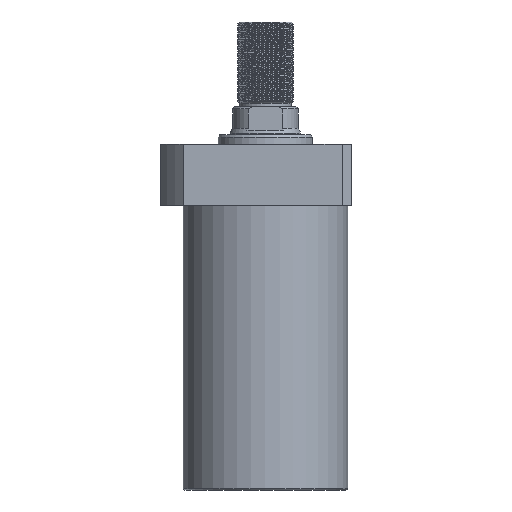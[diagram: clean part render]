
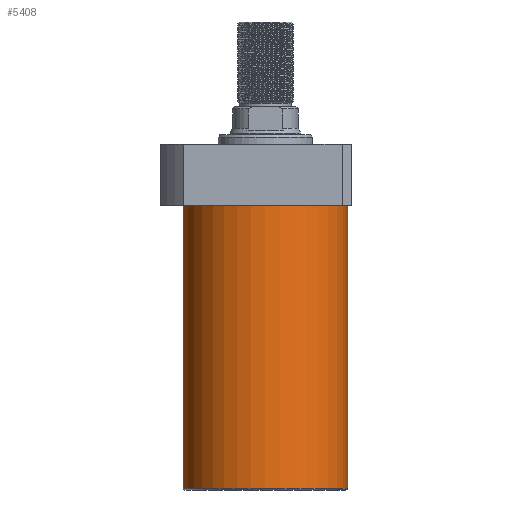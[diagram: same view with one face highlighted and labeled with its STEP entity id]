
A CAD part, front view. The second image highlights one B-rep face of the part: STEP entity #5408.
In plain terms, the highlighted cylindrical face has radius 52.5 mm (diameter 105 mm), a partial arc.
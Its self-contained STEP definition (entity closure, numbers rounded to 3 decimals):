
#83 = ORIENTED_EDGE ( 'NONE', *, *, #6914, .T. ) ;
#366 = VERTEX_POINT ( 'NONE', #7713 ) ;
#557 = EDGE_LOOP ( 'NONE', ( #1904, #6492, #83, #3885 ) ) ;
#598 = DIRECTION ( 'NONE',  ( 0., 0., 1. ) ) ;
#639 = CARTESIAN_POINT ( 'NONE',  ( -52.5, 0., -200.5 ) ) ;
#1173 = VERTEX_POINT ( 'NONE', #3195 ) ;
#1244 = DIRECTION ( 'NONE',  ( 1., 0., 0. ) ) ;
#1288 = CYLINDRICAL_SURFACE ( 'NONE', #1858, 52.5 ) ;
#1544 = EDGE_CURVE ( 'NONE', #3106, #366, #7315, .T. ) ;
#1571 = CARTESIAN_POINT ( 'NONE',  ( 52.5, 0., -201.5 ) ) ;
#1581 = VECTOR ( 'NONE', #2950, 1000. ) ;
#1858 = AXIS2_PLACEMENT_3D ( 'NONE', #6236, #598, #1244 ) ;
#1904 = ORIENTED_EDGE ( 'NONE', *, *, #3457, .F. ) ;
#2014 = CARTESIAN_POINT ( 'NONE',  ( 0., 0., -200.5 ) ) ;
#2230 = DIRECTION ( 'NONE',  ( 0., 0., 1. ) ) ;
#2636 = CIRCLE ( 'NONE', #4981, 52.5 ) ;
#2655 = DIRECTION ( 'NONE',  ( -1., 0., 0. ) ) ;
#2832 = DIRECTION ( 'NONE',  ( 0., 0., -1. ) ) ;
#2950 = DIRECTION ( 'NONE',  ( 0., 0., 1. ) ) ;
#3106 = VERTEX_POINT ( 'NONE', #3801 ) ;
#3195 = CARTESIAN_POINT ( 'NONE',  ( 52.5, 0., -200.5 ) ) ;
#3457 = EDGE_CURVE ( 'NONE', #5933, #366, #5599, .T. ) ;
#3503 = VECTOR ( 'NONE', #2230, 1000. ) ;
#3703 = AXIS2_PLACEMENT_3D ( 'NONE', #6550, #2832, #7190 ) ;
#3801 = CARTESIAN_POINT ( 'NONE',  ( 52.5, 0., -19.5 ) ) ;
#3885 = ORIENTED_EDGE ( 'NONE', *, *, #1544, .T. ) ;
#4981 = AXIS2_PLACEMENT_3D ( 'NONE', #2014, #6366, #2655 ) ;
#5408 = ADVANCED_FACE ( 'NONE', ( #6265 ), #1288, .T. ) ;
#5599 = LINE ( 'NONE', #7311, #1581 ) ;
#5933 = VERTEX_POINT ( 'NONE', #639 ) ;
#6236 = CARTESIAN_POINT ( 'NONE',  ( 0., 0., -201.5 ) ) ;
#6265 = FACE_OUTER_BOUND ( 'NONE', #557, .T. ) ;
#6366 = DIRECTION ( 'NONE',  ( 0., 0., 1. ) ) ;
#6492 = ORIENTED_EDGE ( 'NONE', *, *, #6710, .T. ) ;
#6550 = CARTESIAN_POINT ( 'NONE',  ( 0., 0., -19.5 ) ) ;
#6710 = EDGE_CURVE ( 'NONE', #5933, #1173, #2636, .T. ) ;
#6834 = LINE ( 'NONE', #1571, #3503 ) ;
#6914 = EDGE_CURVE ( 'NONE', #1173, #3106, #6834, .T. ) ;
#7190 = DIRECTION ( 'NONE',  ( 1., 0., 0. ) ) ;
#7311 = CARTESIAN_POINT ( 'NONE',  ( -52.5, 0., -201.5 ) ) ;
#7315 = CIRCLE ( 'NONE', #3703, 52.5 ) ;
#7713 = CARTESIAN_POINT ( 'NONE',  ( -52.5, 0., -19.5 ) ) ;
